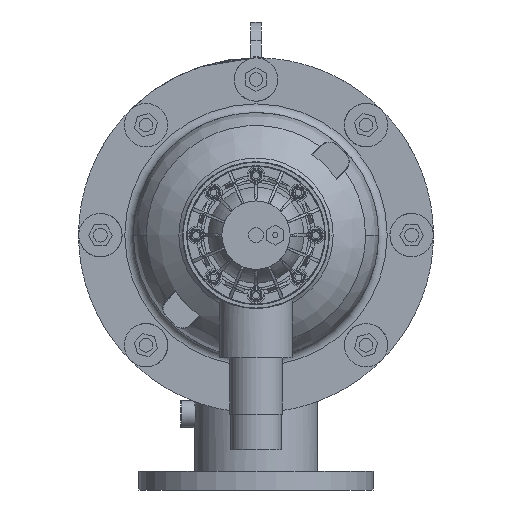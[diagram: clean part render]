
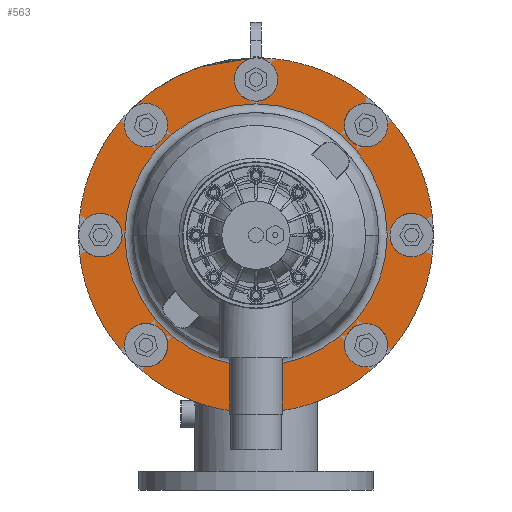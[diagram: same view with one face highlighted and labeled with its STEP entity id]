
A CAD part, left-side view. The second image highlights one B-rep face of the part: STEP entity #563.
In plain terms, the highlighted planar face has unit normal (-1, 0, 0).
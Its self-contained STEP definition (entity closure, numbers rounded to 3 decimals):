
#563 = ADVANCED_FACE( '', ( #1838, #1839 ), #1840, .T. );
#1838 = FACE_OUTER_BOUND( '', #5591, .T. );
#1839 = FACE_BOUND( '', #5592, .T. );
#1840 = PLANE( '', #5593 );
#5591 = EDGE_LOOP( '', ( #9903, #9904, #9905, #9906, #9907, #9908, #9909, #9910, #9911, #9912, #9913, #9914, #9915, #9916, #9917, #9918 ) );
#5592 = EDGE_LOOP( '', ( #9919 ) );
#5593 = AXIS2_PLACEMENT_3D( '', #9920, #9921, #9922 );
#9903 = ORIENTED_EDGE( '', *, *, #13773, .T. );
#9904 = ORIENTED_EDGE( '', *, *, #13778, .T. );
#9905 = ORIENTED_EDGE( '', *, *, #13772, .T. );
#9906 = ORIENTED_EDGE( '', *, *, #13779, .T. );
#9907 = ORIENTED_EDGE( '', *, *, #13771, .T. );
#9908 = ORIENTED_EDGE( '', *, *, #13780, .T. );
#9909 = ORIENTED_EDGE( '', *, *, #13770, .T. );
#9910 = ORIENTED_EDGE( '', *, *, #13781, .T. );
#9911 = ORIENTED_EDGE( '', *, *, #13769, .T. );
#9912 = ORIENTED_EDGE( '', *, *, #13782, .T. );
#9913 = ORIENTED_EDGE( '', *, *, #13776, .T. );
#9914 = ORIENTED_EDGE( '', *, *, #13783, .T. );
#9915 = ORIENTED_EDGE( '', *, *, #13775, .T. );
#9916 = ORIENTED_EDGE( '', *, *, #13784, .T. );
#9917 = ORIENTED_EDGE( '', *, *, #13774, .T. );
#9918 = ORIENTED_EDGE( '', *, *, #13785, .T. );
#9919 = ORIENTED_EDGE( '', *, *, #12650, .T. );
#9920 = CARTESIAN_POINT( '', ( -1390., 0., 0. ) );
#9921 = DIRECTION( '', ( -1., 0., 0. ) );
#9922 = DIRECTION( '', ( 0., -1., 0. ) );
#12650 = EDGE_CURVE( '', #14571, #14571, #14572, .T. );
#13769 = EDGE_CURVE( '', #16481, #16482, #16483, .T. );
#13770 = EDGE_CURVE( '', #16484, #16481, #16485, .T. );
#13771 = EDGE_CURVE( '', #16486, #16484, #16487, .T. );
#13772 = EDGE_CURVE( '', #16488, #16486, #16489, .T. );
#13773 = EDGE_CURVE( '', #16490, #16488, #16491, .T. );
#13774 = EDGE_CURVE( '', #16492, #16490, #16493, .T. );
#13775 = EDGE_CURVE( '', #16494, #16492, #16495, .T. );
#13776 = EDGE_CURVE( '', #16482, #16494, #16496, .T. );
#13778 = EDGE_CURVE( '', #16488, #16488, #16499, .F. );
#13779 = EDGE_CURVE( '', #16486, #16486, #16500, .F. );
#13780 = EDGE_CURVE( '', #16484, #16484, #16501, .F. );
#13781 = EDGE_CURVE( '', #16481, #16481, #16502, .F. );
#13782 = EDGE_CURVE( '', #16482, #16482, #16503, .F. );
#13783 = EDGE_CURVE( '', #16494, #16494, #16504, .F. );
#13784 = EDGE_CURVE( '', #16492, #16492, #16505, .F. );
#13785 = EDGE_CURVE( '', #16490, #16490, #16506, .F. );
#14571 = VERTEX_POINT( '', #19205 );
#14572 = CIRCLE( '', #19206, 121. );
#16481 = VERTEX_POINT( '', #23438 );
#16482 = VERTEX_POINT( '', #23439 );
#16483 = CIRCLE( '', #23440, 163.5 );
#16484 = VERTEX_POINT( '', #23441 );
#16485 = CIRCLE( '', #23442, 163.5 );
#16486 = VERTEX_POINT( '', #23443 );
#16487 = CIRCLE( '', #23444, 163.5 );
#16488 = VERTEX_POINT( '', #23445 );
#16489 = CIRCLE( '', #23446, 163.5 );
#16490 = VERTEX_POINT( '', #23447 );
#16491 = CIRCLE( '', #23448, 163.5 );
#16492 = VERTEX_POINT( '', #23449 );
#16493 = CIRCLE( '', #23450, 163.5 );
#16494 = VERTEX_POINT( '', #23451 );
#16495 = CIRCLE( '', #23452, 163.5 );
#16496 = CIRCLE( '', #23453, 163.5 );
#16499 = CIRCLE( '', #23456, 20. );
#16500 = CIRCLE( '', #23457, 20. );
#16501 = CIRCLE( '', #23458, 20. );
#16502 = CIRCLE( '', #23459, 20. );
#16503 = CIRCLE( '', #23460, 20. );
#16504 = CIRCLE( '', #23461, 20. );
#16505 = CIRCLE( '', #23462, 20. );
#16506 = CIRCLE( '', #23463, 20. );
#19205 = CARTESIAN_POINT( '', ( -1390., 121., 0. ) );
#19206 = AXIS2_PLACEMENT_3D( '', #24920, #24921, #24922 );
#23438 = CARTESIAN_POINT( '', ( -1390., 0., -163.5 ) );
#23439 = CARTESIAN_POINT( '', ( -1390., -115.612, -115.612 ) );
#23440 = AXIS2_PLACEMENT_3D( '', #26488, #26489, #26490 );
#23441 = CARTESIAN_POINT( '', ( -1390., 115.612, -115.612 ) );
#23442 = AXIS2_PLACEMENT_3D( '', #26491, #26492, #26493 );
#23443 = CARTESIAN_POINT( '', ( -1390., 163.5, 0. ) );
#23444 = AXIS2_PLACEMENT_3D( '', #26494, #26495, #26496 );
#23445 = CARTESIAN_POINT( '', ( -1390., 115.612, 115.612 ) );
#23446 = AXIS2_PLACEMENT_3D( '', #26497, #26498, #26499 );
#23447 = CARTESIAN_POINT( '', ( -1390., 0., 163.5 ) );
#23448 = AXIS2_PLACEMENT_3D( '', #26500, #26501, #26502 );
#23449 = CARTESIAN_POINT( '', ( -1390., -115.612, 115.612 ) );
#23450 = AXIS2_PLACEMENT_3D( '', #26503, #26504, #26505 );
#23451 = CARTESIAN_POINT( '', ( -1390., -163.5, 0. ) );
#23452 = AXIS2_PLACEMENT_3D( '', #26506, #26507, #26508 );
#23453 = AXIS2_PLACEMENT_3D( '', #26509, #26510, #26511 );
#23456 = AXIS2_PLACEMENT_3D( '', #26515, #26516, #26517 );
#23457 = AXIS2_PLACEMENT_3D( '', #26518, #26519, #26520 );
#23458 = AXIS2_PLACEMENT_3D( '', #26521, #26522, #26523 );
#23459 = AXIS2_PLACEMENT_3D( '', #26524, #26525, #26526 );
#23460 = AXIS2_PLACEMENT_3D( '', #26527, #26528, #26529 );
#23461 = AXIS2_PLACEMENT_3D( '', #26530, #26531, #26532 );
#23462 = AXIS2_PLACEMENT_3D( '', #26533, #26534, #26535 );
#23463 = AXIS2_PLACEMENT_3D( '', #26536, #26537, #26538 );
#24920 = CARTESIAN_POINT( '', ( -1390., 0., 0. ) );
#24921 = DIRECTION( '', ( 1., 0., 0. ) );
#24922 = DIRECTION( '', ( 0., 1., 0. ) );
#26488 = CARTESIAN_POINT( '', ( -1390., 0., 0. ) );
#26489 = DIRECTION( '', ( -1., 0., 0. ) );
#26490 = DIRECTION( '', ( 0., 0., -1. ) );
#26491 = CARTESIAN_POINT( '', ( -1390., 0., 0. ) );
#26492 = DIRECTION( '', ( -1., 0., 0. ) );
#26493 = DIRECTION( '', ( 0., 0., -1. ) );
#26494 = CARTESIAN_POINT( '', ( -1390., 0., 0. ) );
#26495 = DIRECTION( '', ( -1., 0., 0. ) );
#26496 = DIRECTION( '', ( 0., 0., -1. ) );
#26497 = CARTESIAN_POINT( '', ( -1390., 0., 0. ) );
#26498 = DIRECTION( '', ( -1., 0., 0. ) );
#26499 = DIRECTION( '', ( 0., 0., -1. ) );
#26500 = CARTESIAN_POINT( '', ( -1390., 0., 0. ) );
#26501 = DIRECTION( '', ( -1., 0., 0. ) );
#26502 = DIRECTION( '', ( 0., 0., -1. ) );
#26503 = CARTESIAN_POINT( '', ( -1390., 0., 0. ) );
#26504 = DIRECTION( '', ( -1., 0., 0. ) );
#26505 = DIRECTION( '', ( 0., 0., -1. ) );
#26506 = CARTESIAN_POINT( '', ( -1390., 0., 0. ) );
#26507 = DIRECTION( '', ( -1., 0., 0. ) );
#26508 = DIRECTION( '', ( 0., 0., -1. ) );
#26509 = CARTESIAN_POINT( '', ( -1390., 0., 0. ) );
#26510 = DIRECTION( '', ( -1., 0., 0. ) );
#26511 = DIRECTION( '', ( 0., 0., -1. ) );
#26515 = CARTESIAN_POINT( '', ( -1390., 101.47, 101.47 ) );
#26516 = DIRECTION( '', ( -1., 0., 0. ) );
#26517 = DIRECTION( '', ( 0., -0.707, 0.707 ) );
#26518 = CARTESIAN_POINT( '', ( -1390., 143.5, 0. ) );
#26519 = DIRECTION( '', ( -1., 0., 0. ) );
#26520 = DIRECTION( '', ( 0., 0., 1. ) );
#26521 = CARTESIAN_POINT( '', ( -1390., 101.47, -101.47 ) );
#26522 = DIRECTION( '', ( -1., 0., 0. ) );
#26523 = DIRECTION( '', ( 0., 0.707, 0.707 ) );
#26524 = CARTESIAN_POINT( '', ( -1390., 0., -143.5 ) );
#26525 = DIRECTION( '', ( -1., 0., 0. ) );
#26526 = DIRECTION( '', ( 0., 1., 0. ) );
#26527 = CARTESIAN_POINT( '', ( -1390., -101.47, -101.47 ) );
#26528 = DIRECTION( '', ( -1., 0., 0. ) );
#26529 = DIRECTION( '', ( 0., 0.707, -0.707 ) );
#26530 = CARTESIAN_POINT( '', ( -1390., -143.5, 0. ) );
#26531 = DIRECTION( '', ( -1., 0., 0. ) );
#26532 = DIRECTION( '', ( 0., 0., -1. ) );
#26533 = CARTESIAN_POINT( '', ( -1390., -101.47, 101.47 ) );
#26534 = DIRECTION( '', ( -1., 0., 0. ) );
#26535 = DIRECTION( '', ( 0., -0.707, -0.707 ) );
#26536 = CARTESIAN_POINT( '', ( -1390., 0., 143.5 ) );
#26537 = DIRECTION( '', ( -1., 0., 0. ) );
#26538 = DIRECTION( '', ( 0., -1., 0. ) );
